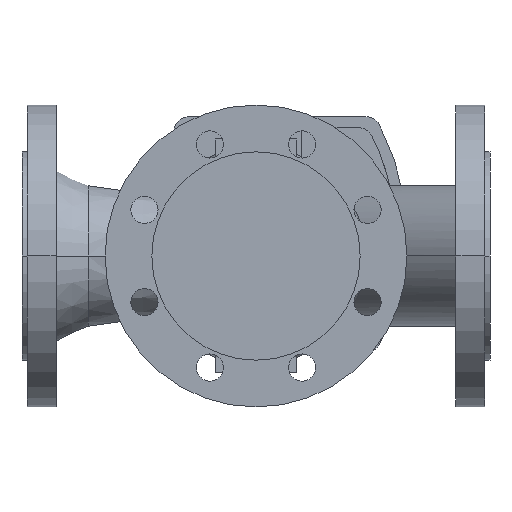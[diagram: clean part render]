
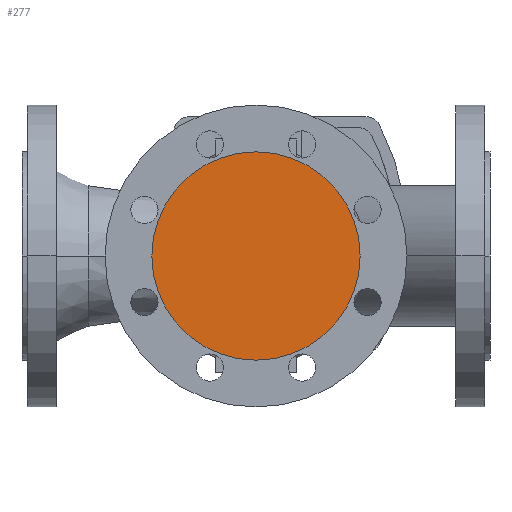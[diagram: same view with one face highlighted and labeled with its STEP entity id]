
A CAD part, front view. The second image highlights one B-rep face of the part: STEP entity #277.
In plain terms, the highlighted planar face has unit normal (0, -1, 0).
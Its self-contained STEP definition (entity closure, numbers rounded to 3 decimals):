
#277 = ADVANCED_FACE( '', ( #769 ), #770, .T. );
#769 = FACE_OUTER_BOUND( '', #1407, .T. );
#770 = PLANE( '', #1408 );
#1407 = EDGE_LOOP( '', ( #2918, #2919 ) );
#1408 = AXIS2_PLACEMENT_3D( '', #2920, #2921, #2922 );
#2918 = ORIENTED_EDGE( '', *, *, #4039, .F. );
#2919 = ORIENTED_EDGE( '', *, *, #4424, .F. );
#2920 = CARTESIAN_POINT( '', ( 189.5, -130., 0. ) );
#2921 = DIRECTION( '', ( 0., -1., 0. ) );
#2922 = DIRECTION( '', ( -1., 0., 0. ) );
#4039 = EDGE_CURVE( '', #4804, #4807, #4808, .T. );
#4424 = EDGE_CURVE( '', #4807, #4804, #5441, .T. );
#4804 = VERTEX_POINT( '', #6100 );
#4807 = VERTEX_POINT( '', #6104 );
#4808 = CIRCLE( '', #6105, 69. );
#5441 = CIRCLE( '', #7295, 69. );
#6100 = CARTESIAN_POINT( '', ( 224., -130., 0. ) );
#6104 = CARTESIAN_POINT( '', ( 86., -130., 0. ) );
#6105 = AXIS2_PLACEMENT_3D( '', #8132, #8133, #8134 );
#7295 = AXIS2_PLACEMENT_3D( '', #8899, #8900, #8901 );
#8132 = CARTESIAN_POINT( '', ( 155., -130., 0. ) );
#8133 = DIRECTION( '', ( 0., 1., 0. ) );
#8134 = DIRECTION( '', ( 1., 0., 0. ) );
#8899 = CARTESIAN_POINT( '', ( 155., -130., 0. ) );
#8900 = DIRECTION( '', ( 0., 1., 0. ) );
#8901 = DIRECTION( '', ( 1., 0., 0. ) );
